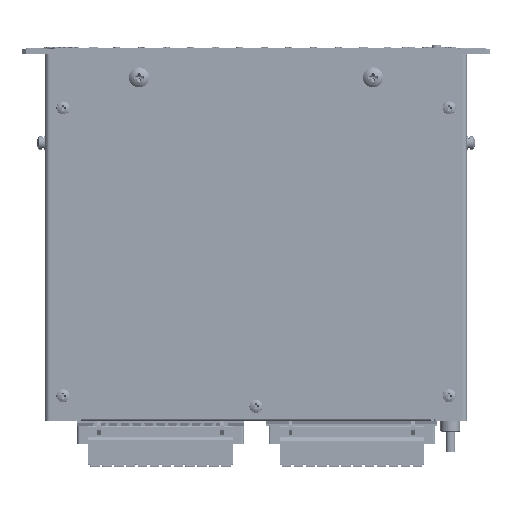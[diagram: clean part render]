
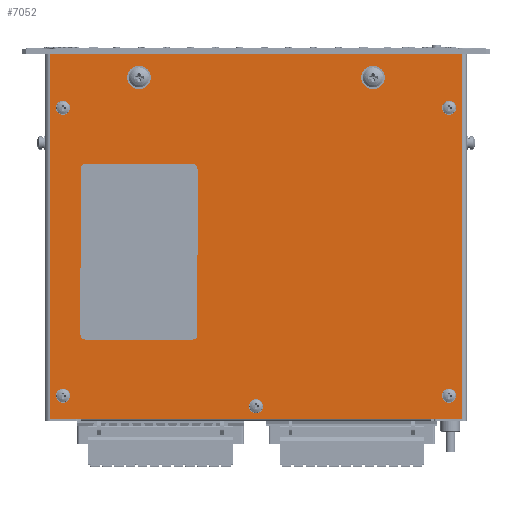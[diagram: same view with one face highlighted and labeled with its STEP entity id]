
A CAD part, left-side view. The second image highlights one B-rep face of the part: STEP entity #7052.
In plain terms, the highlighted planar face has unit normal (-1, 0, 0) as drawn and (0, 0, 1) by its records, which use the part's own axes.
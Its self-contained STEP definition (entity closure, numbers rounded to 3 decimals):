
#7052=ADVANCED_FACE('',(#360263,#360265,#360267,#360269,#360271,#360273,#360275,
#360277),#360279,.T.);
#360263=FACE_BOUND('',#360264,.T.);
#360264=EDGE_LOOP('',(#649706,#649707,#649708,#649709));
#360265=FACE_BOUND('',#360266,.T.);
#360266=EDGE_LOOP('',(#649710));
#360267=FACE_BOUND('',#360268,.T.);
#360268=EDGE_LOOP('',(#649711));
#360269=FACE_BOUND('',#360270,.T.);
#360270=EDGE_LOOP('',(#649712));
#360271=FACE_BOUND('',#360272,.T.);
#360272=EDGE_LOOP('',(#649713));
#360273=FACE_BOUND('',#360274,.T.);
#360274=EDGE_LOOP('',(#649714));
#360275=FACE_BOUND('',#360276,.T.);
#360276=EDGE_LOOP('',(#649715));
#360277=FACE_BOUND('',#360278,.T.);
#360278=EDGE_LOOP('',(#649716));
#360279=PLANE('',#360280);
#360280=AXIS2_PLACEMENT_3D('',#360281,#360282,#360283);
#360281=CARTESIAN_POINT('',(0.,0.,1.));
#360282=DIRECTION('',(0.,0.,1.));
#360283=DIRECTION('',(1.,0.,0.));
#649706=ORIENTED_EDGE('',*,*,#912322,.T.);
#649707=ORIENTED_EDGE('',*,*,#912323,.T.);
#649708=ORIENTED_EDGE('',*,*,#912324,.T.);
#649709=ORIENTED_EDGE('',*,*,#912325,.T.);
#649710=ORIENTED_EDGE('',*,*,#912326,.T.);
#649711=ORIENTED_EDGE('',*,*,#912327,.T.);
#649712=ORIENTED_EDGE('',*,*,#912328,.T.);
#649713=ORIENTED_EDGE('',*,*,#912329,.T.);
#649714=ORIENTED_EDGE('',*,*,#912330,.T.);
#649715=ORIENTED_EDGE('',*,*,#912331,.T.);
#649716=ORIENTED_EDGE('',*,*,#912332,.T.);
#912322=EDGE_CURVE('',#1028619,#1028620,#1028621,.T.);
#912323=EDGE_CURVE('',#1028620,#1028622,#1028623,.T.);
#912324=EDGE_CURVE('',#1028622,#1028624,#1028625,.T.);
#912325=EDGE_CURVE('',#1028624,#1028619,#1028626,.T.);
#912326=EDGE_CURVE('',#1028627,#1028627,#1028628,.F.);
#912327=EDGE_CURVE('',#1028629,#1028629,#1028630,.F.);
#912328=EDGE_CURVE('',#1028631,#1028631,#1028632,.F.);
#912329=EDGE_CURVE('',#1028633,#1028633,#1028634,.F.);
#912330=EDGE_CURVE('',#1028635,#1028635,#1028636,.F.);
#912331=EDGE_CURVE('',#1028637,#1028637,#1028638,.F.);
#912332=EDGE_CURVE('',#1028639,#1028639,#1028640,.F.);
#1028619=VERTEX_POINT('',#1216430);
#1028620=VERTEX_POINT('',#1216431);
#1028621=LINE('',#1216432,#1216433);
#1028622=VERTEX_POINT('',#1216435);
#1028623=LINE('',#1216436,#1216437);
#1028624=VERTEX_POINT('',#1216439);
#1028625=LINE('',#1216440,#1216441);
#1028626=LINE('',#1216443,#1216444);
#1028627=VERTEX_POINT('',#1216446);
#1028628=CIRCLE('',#1216447,1.75);
#1028629=VERTEX_POINT('',#1216451);
#1028630=CIRCLE('',#1216452,2.25);
#1028631=VERTEX_POINT('',#1216456);
#1028632=CIRCLE('',#1216457,2.25);
#1028633=VERTEX_POINT('',#1216461);
#1028634=CIRCLE('',#1216462,1.75);
#1028635=VERTEX_POINT('',#1216466);
#1028636=CIRCLE('',#1216467,1.75);
#1028637=VERTEX_POINT('',#1216471);
#1028638=CIRCLE('',#1216472,1.75);
#1028639=VERTEX_POINT('',#1216476);
#1028640=CIRCLE('',#1216477,1.75);
#1216430=CARTESIAN_POINT('',(78.,88.,1.));
#1216431=CARTESIAN_POINT('',(-78.,88.,1.));
#1216432=CARTESIAN_POINT('',(78.,88.,1.));
#1216433=VECTOR('',#1216434,1.);
#1216434=DIRECTION('',(-1.,0.,0.));
#1216435=CARTESIAN_POINT('',(-78.,-88.,1.));
#1216436=CARTESIAN_POINT('',(-78.,88.,1.));
#1216437=VECTOR('',#1216438,1.);
#1216438=DIRECTION('',(0.,-1.,0.));
#1216439=CARTESIAN_POINT('',(78.,-88.,1.));
#1216440=CARTESIAN_POINT('',(-78.,-88.,1.));
#1216441=VECTOR('',#1216442,1.);
#1216442=DIRECTION('',(1.,0.,0.));
#1216443=CARTESIAN_POINT('',(78.,-88.,1.));
#1216444=VECTOR('',#1216445,1.);
#1216445=DIRECTION('',(0.,1.,0.));
#1216446=CARTESIAN_POINT('',(74.25,0.,1.));
#1216447=AXIS2_PLACEMENT_3D('',#1216448,#1216449,#1216450);
#1216448=CARTESIAN_POINT('',(72.5,0.,1.));
#1216449=DIRECTION('',(0.,0.,1.));
#1216450=DIRECTION('',(1.,0.,0.));
#1216451=CARTESIAN_POINT('',(-65.75,50.,1.));
#1216452=AXIS2_PLACEMENT_3D('',#1216453,#1216454,#1216455);
#1216453=CARTESIAN_POINT('',(-68.,50.,1.));
#1216454=DIRECTION('',(0.,0.,1.));
#1216455=DIRECTION('',(1.,0.,0.));
#1216456=CARTESIAN_POINT('',(-65.75,-50.,1.));
#1216457=AXIS2_PLACEMENT_3D('',#1216458,#1216459,#1216460);
#1216458=CARTESIAN_POINT('',(-68.,-50.,1.));
#1216459=DIRECTION('',(0.,0.,1.));
#1216460=DIRECTION('',(1.,0.,0.));
#1216461=CARTESIAN_POINT('',(-53.25,82.5,1.));
#1216462=AXIS2_PLACEMENT_3D('',#1216463,#1216464,#1216465);
#1216463=CARTESIAN_POINT('',(-55.,82.5,1.));
#1216464=DIRECTION('',(0.,0.,1.));
#1216465=DIRECTION('',(1.,0.,0.));
#1216466=CARTESIAN_POINT('',(69.75,82.5,1.));
#1216467=AXIS2_PLACEMENT_3D('',#1216468,#1216469,#1216470);
#1216468=CARTESIAN_POINT('',(68.,82.5,1.));
#1216469=DIRECTION('',(0.,0.,1.));
#1216470=DIRECTION('',(1.,0.,0.));
#1216471=CARTESIAN_POINT('',(-53.25,-82.5,1.));
#1216472=AXIS2_PLACEMENT_3D('',#1216473,#1216474,#1216475);
#1216473=CARTESIAN_POINT('',(-55.,-82.5,1.));
#1216474=DIRECTION('',(0.,0.,1.));
#1216475=DIRECTION('',(1.,0.,0.));
#1216476=CARTESIAN_POINT('',(69.75,-82.5,1.));
#1216477=AXIS2_PLACEMENT_3D('',#1216478,#1216479,#1216480);
#1216478=CARTESIAN_POINT('',(68.,-82.5,1.));
#1216479=DIRECTION('',(0.,0.,1.));
#1216480=DIRECTION('',(1.,0.,0.));
